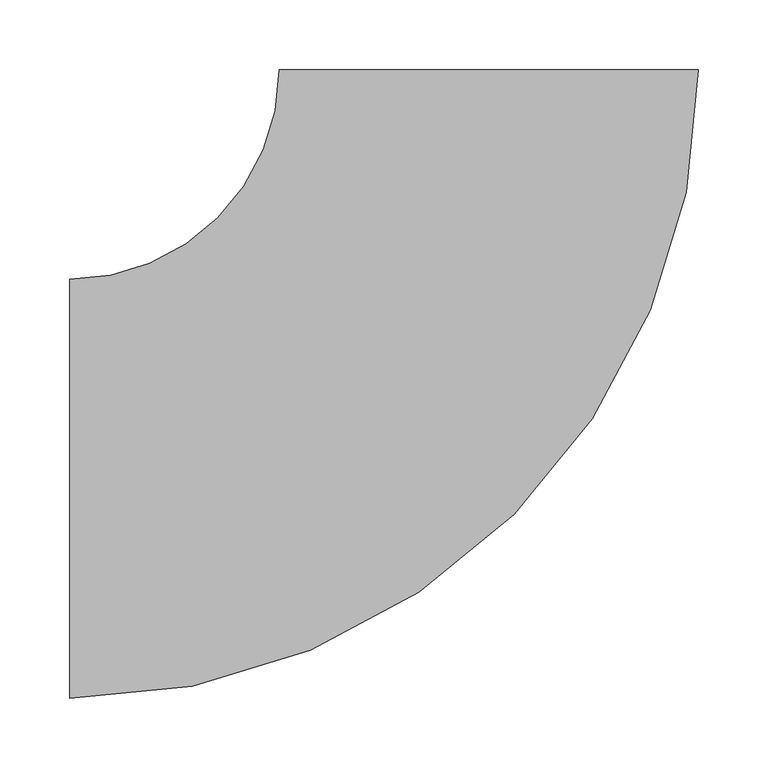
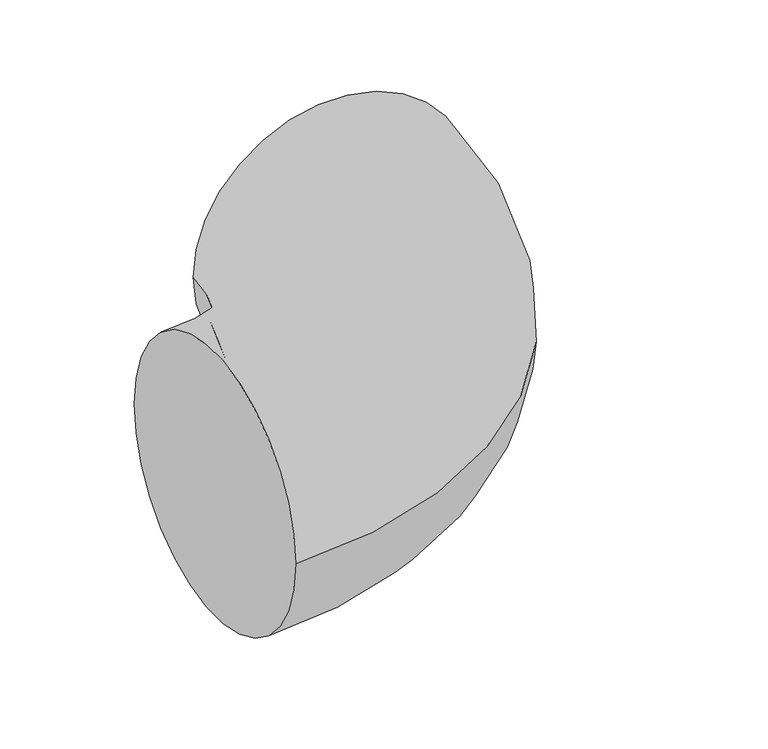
"""IFC4 building model written with IfcOpenShell, lengths in millimetres: duct fitting geometry, magicirc_elbow_full_radius_001 : magicirc_elbow_full_radius_001."""

from ifc_helpers import new_model, si_unit, point, frame, origin, place, context, project, spatial, circle_curve, ellipse_curve, trimmed, source, transform, mapped, element, save
from ifc_brep_helpers import plane_surface, revolved_surface, advanced_brep


def duct_fitting_9d318a92(model_context):
    return source(origin(), model_context, "Body", "AdvancedBrep", [
        advanced_brep(
        [(-300.0, -150.0, 0.0), (-300.0, 150.0, 0.0), (150.0, 300.0, 0.0), (-150.0, 300.0, 0.0)],
        [
            (0, 1, circle_curve(frame((-300.0, 0.0, 0.0), z_axis=(-1.0, 0.0, 0.0), x_axis=(0.0, 1.0, 0.0)), 150.0)),
            (1, 0, circle_curve(frame((-300.0, 0.0, 0.0), z_axis=(-1.0, 0.0, 0.0), x_axis=(0.0, 1.0, 0.0)), 150.0)),
            (2, 3, circle_curve(frame((0.0, 300.0, 0.0), z_axis=(0.0, 1.0, 0.0), x_axis=(-1.0, 0.0, 0.0)), 150.0)),
            (3, 2, circle_curve(frame((0.0, 300.0, 0.0), z_axis=(0.0, 1.0, 0.0), x_axis=(-1.0, 0.0, 0.0)), 150.0)),
            (3, 1, circle_curve(frame((-300.0, 300.0, 0.0), z_axis=(0.0, 0.0, -1.0), x_axis=(0.0, -1.0, 0.0)), 150.0)),
            (0, 2, circle_curve(frame((-300.0, 300.0, 0.0), z_axis=(0.0, 0.0, 1.0), x_axis=(0.0, -1.0, 0.0)), 450.0)),
        ],
        [
            plane_surface(frame((-300.0, 0.0, 0.0), z_axis=(-1.0, 0.0, 0.0), x_axis=(0.0, 0.0, 1.0))),
            plane_surface(frame((0.0, 300.0, 0.0), z_axis=(0.0, 1.0, 0.0), x_axis=(0.0, 0.0, 1.0))),
            revolved_surface(trimmed(ellipse_curve(frame((-300.0, 0.0, 0.0), z_axis=(-1.0, 0.0, 0.0), x_axis=(0.0, 1.0, 0.0)), 150.0, 150.0), [point((-300.0, -150.0, 0.0))], [point((-300.0, 150.0, 0.0))], True, "CARTESIAN"), (-300.0, 300.0, 0.0), (0.0, 0.0, 1.0)),
            revolved_surface(trimmed(ellipse_curve(frame((-300.0, 0.0, 0.0), z_axis=(-1.0, 0.0, 0.0), x_axis=(0.0, 1.0, 0.0)), 150.0, 150.0), [point((-300.0, 150.0, 0.0))], [point((-300.0, -150.0, 0.0))], True, "CARTESIAN"), (-300.0, 300.0, 0.0), (0.0, 0.0, 1.0)),
        ],
        [
            (0, [[1, 2]]),
            (1, [[3, 4]]),
            (2, [[5, -1, 6, -4]]),
            (3, [[-6, -2, -5, -3]]),
        ],
    ),
    ])


if __name__ == "__main__":
    model = new_model("IFC4")
    model_context = context("Model", 3, world=origin())
    ifc_project = project(units=[si_unit("LENGTHUNIT", "METRE", prefix="MILLI")], contexts=[model_context])
    site = spatial("IfcSite", under=ifc_project)
    building = spatial("IfcBuilding", under=site)
    placement = place(None, origin())
    duct_fitting_shape = duct_fitting_9d318a92(model_context)
    element("IfcDuctFitting", 1, ObjectType="magicirc_elbow_full_radius_001 : magicirc_elbow_full_radius_001", at=placement, inside=building, context=model_context, shape_type="MappedRepresentation", body=[
        mapped(duct_fitting_shape, transform((0.0, 0.0, 0.0), x_axis=(1.0, 0.0, 0.0), y_axis=(0.0, 1.0, 0.0), z_axis=(0.0, 0.0, 1.0))),
    ])
    save(model, "model.ifc")
